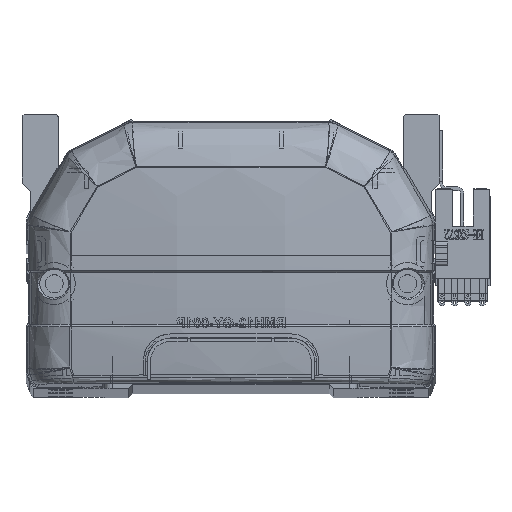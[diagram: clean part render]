
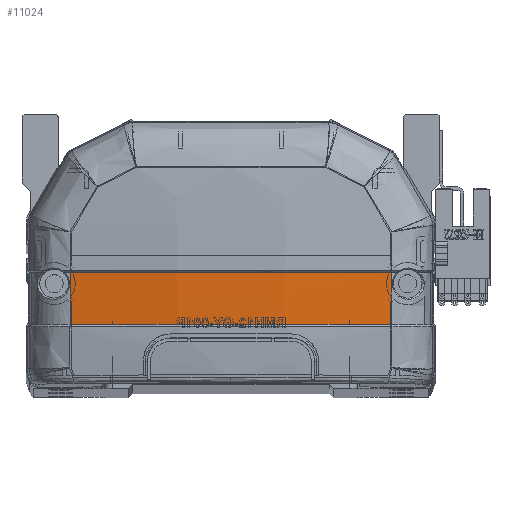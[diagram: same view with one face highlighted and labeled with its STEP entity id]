
A CAD part, top view. The second image highlights one B-rep face of the part: STEP entity #11024.
In plain terms, the highlighted free-form (B-spline) face has degree [3, 3] with [4, 4] control points.
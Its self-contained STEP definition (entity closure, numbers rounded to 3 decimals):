
#1162 = ORIENTED_EDGE ( 'NONE', *, *, #32492, .F. ) ;
#2226 = CARTESIAN_POINT ( 'NONE',  ( -13.384, 15.83, -8.724 ) ) ;
#2518 = CARTESIAN_POINT ( 'NONE',  ( 40.461, 28.832, -6.296 ) ) ;
#2749 = CARTESIAN_POINT ( 'NONE',  ( 26.761, 15.83, -7.945 ) ) ;
#3299 = CARTESIAN_POINT ( 'NONE',  ( -39.963, 28.706, -6.372 ) ) ;
#3590 = CARTESIAN_POINT ( 'NONE',  ( -26.748, 28.706, -8.432 ) ) ;
#3640 = CARTESIAN_POINT ( 'NONE',  ( -39.966, 24.412, -6.306 ) ) ;
#5342 = VERTEX_POINT ( 'NONE', #40905 ) ;
#6749 = CARTESIAN_POINT ( 'NONE',  ( -26.721, 15.83, -7.624 ) ) ;
#8481 = CARTESIAN_POINT ( 'NONE',  ( -13.373, 28.707, -9.468 ) ) ;
#8649 = CARTESIAN_POINT ( 'NONE',  ( 39.963, 28.706, -6.372 ) ) ;
#9544 = B_SPLINE_CURVE_WITH_KNOTS ( 'NONE', 3,
 ( #20130, #3590, #8481, #20469, #32641, #8649 ),
 .UNSPECIFIED., .F., .F.,
 ( 4, 2, 4 ),
 ( 0., 0.5, 1. ),
 .UNSPECIFIED. ) ;
#9662 = EDGE_CURVE ( 'NONE', #38555, #36040, #9544, .T. ) ;
#9684 = ORIENTED_EDGE ( 'NONE', *, *, #43623, .T. ) ;
#10077 = CARTESIAN_POINT ( 'NONE',  ( 40.461, 20.111, -6.066 ) ) ;
#10296 = CARTESIAN_POINT ( 'NONE',  ( -36.679, 15.83, -6.395 ) ) ;
#10417 = CARTESIAN_POINT ( 'NONE',  ( -13.598, 24.342, -10.47 ) ) ;
#10632 = CARTESIAN_POINT ( 'NONE',  ( -33.365, 15.83, -6.848 ) ) ;
#11024 = ADVANCED_FACE ( 'NONE', ( #35525 ), #28067, .F. ) ;
#14424 = CARTESIAN_POINT ( 'NONE',  ( -39.985, 15.83, -5.879 ) ) ;
#16425 = CARTESIAN_POINT ( 'NONE',  ( 39.985, 15.83, -5.879 ) ) ;
#17869 = CARTESIAN_POINT ( 'NONE',  ( -13.598, 15.499, -10.032 ) ) ;
#18205 = CARTESIAN_POINT ( 'NONE',  ( 13.598, 24.342, -10.47 ) ) ;
#19604 = ORIENTED_EDGE ( 'NONE', *, *, #49989, .T. ) ;
#20130 = CARTESIAN_POINT ( 'NONE',  ( -39.963, 28.706, -6.372 ) ) ;
#20469 = CARTESIAN_POINT ( 'NONE',  ( 13.375, 28.707, -9.468 ) ) ;
#20834 = CARTESIAN_POINT ( 'NONE',  ( 39.963, 28.706, -6.372 ) ) ;
#20943 = VERTEX_POINT ( 'NONE', #50614 ) ;
#21719 = B_SPLINE_CURVE_WITH_KNOTS ( 'NONE', 3,
 ( #16425, #27705, #36384, #28232 ),
 .UNSPECIFIED., .F., .F.,
 ( 4, 4 ),
 ( 0., 1. ),
 .UNSPECIFIED. ) ;
#21864 = CARTESIAN_POINT ( 'NONE',  ( -40.461, 15.757, -5.8 ) ) ;
#22545 = CARTESIAN_POINT ( 'NONE',  ( -40.461, 24.47, -6.231 ) ) ;
#26401 = CARTESIAN_POINT ( 'NONE',  ( -6.692, 15.83, -8.984 ) ) ;
#27705 = CARTESIAN_POINT ( 'NONE',  ( 39.973, 20.12, -6.142 ) ) ;
#27773 = B_SPLINE_CURVE_WITH_KNOTS ( 'NONE', 3,
 ( #38204, #2749, #46170, #26401, #2226, #30638, #6749, #10632, #10296, #14424 ),
 .UNSPECIFIED., .F., .F.,
 ( 4, 2, 2, 2, 4 ),
 ( 0., 0.04, 0.06, 0.07, 0.08 ),
 .UNSPECIFIED. ) ;
#28067 =( BOUNDED_SURFACE ( )  B_SPLINE_SURFACE ( 3, 3, ( 
 ( #30052, #10077, #50153, #2518 ),
 ( #34047, #30412, #18205, #41929 ),
 ( #17869, #30232, #10417, #49621 ),
 ( #21864, #38153, #22545, #45607 ) ),
 .UNSPECIFIED., .F., .F., .F. ) 
 B_SPLINE_SURFACE_WITH_KNOTS ( ( 4, 4 ),
 ( 4, 4 ),
 ( 0., 1. ),
 ( 0., 1. ),
 .UNSPECIFIED. ) 
 GEOMETRIC_REPRESENTATION_ITEM ( )  RATIONAL_B_SPLINE_SURFACE ( (
 ( 1., 1., 1., 1.),
 ( 0.992, 0.992, 0.992, 0.992),
 ( 0.992, 0.992, 0.992, 0.992),
 ( 1., 1., 1., 1.) ) ) 
 REPRESENTATION_ITEM ( '' )  SURFACE ( )  );
#28232 = CARTESIAN_POINT ( 'NONE',  ( 39.963, 28.706, -6.372 ) ) ;
#30052 = CARTESIAN_POINT ( 'NONE',  ( 40.461, 15.757, -5.8 ) ) ;
#30232 = CARTESIAN_POINT ( 'NONE',  ( -13.598, 19.918, -10.302 ) ) ;
#30412 = CARTESIAN_POINT ( 'NONE',  ( 13.598, 19.918, -10.302 ) ) ;
#30638 = CARTESIAN_POINT ( 'NONE',  ( -23.389, 15.83, -7.947 ) ) ;
#32492 = EDGE_CURVE ( 'NONE', #20943, #5342, #27773, .T. ) ;
#32641 = CARTESIAN_POINT ( 'NONE',  ( 26.749, 28.706, -8.432 ) ) ;
#34047 = CARTESIAN_POINT ( 'NONE',  ( 13.598, 15.499, -10.032 ) ) ;
#35525 = FACE_OUTER_BOUND ( 'NONE', #35958, .T. ) ;
#35958 = EDGE_LOOP ( 'NONE', ( #19604, #37554, #9684, #1162 ) ) ;
#36040 = VERTEX_POINT ( 'NONE', #20834 ) ;
#36384 = CARTESIAN_POINT ( 'NONE',  ( 39.966, 24.413, -6.306 ) ) ;
#37554 = ORIENTED_EDGE ( 'NONE', *, *, #9662, .F. ) ;
#38153 = CARTESIAN_POINT ( 'NONE',  ( -40.461, 20.111, -6.066 ) ) ;
#38204 = CARTESIAN_POINT ( 'NONE',  ( 39.985, 15.83, -5.879 ) ) ;
#38555 = VERTEX_POINT ( 'NONE', #47181 ) ;
#40905 = CARTESIAN_POINT ( 'NONE',  ( -39.985, 15.83, -5.879 ) ) ;
#41929 = CARTESIAN_POINT ( 'NONE',  ( 13.598, 28.769, -10.535 ) ) ;
#41972 = B_SPLINE_CURVE_WITH_KNOTS ( 'NONE', 3,
 ( #3299, #3640, #42877, #50953 ),
 .UNSPECIFIED., .F., .F.,
 ( 4, 4 ),
 ( 0., 1. ),
 .UNSPECIFIED. ) ;
#42877 = CARTESIAN_POINT ( 'NONE',  ( -39.973, 20.118, -6.142 ) ) ;
#43623 = EDGE_CURVE ( 'NONE', #38555, #5342, #41972, .T. ) ;
#45607 = CARTESIAN_POINT ( 'NONE',  ( -40.461, 28.832, -6.296 ) ) ;
#46170 = CARTESIAN_POINT ( 'NONE',  ( 13.38, 15.83, -8.984 ) ) ;
#47181 = CARTESIAN_POINT ( 'NONE',  ( -39.963, 28.706, -6.372 ) ) ;
#49621 = CARTESIAN_POINT ( 'NONE',  ( -13.598, 28.769, -10.535 ) ) ;
#49989 = EDGE_CURVE ( 'NONE', #20943, #36040, #21719, .T. ) ;
#50153 = CARTESIAN_POINT ( 'NONE',  ( 40.461, 24.47, -6.231 ) ) ;
#50614 = CARTESIAN_POINT ( 'NONE',  ( 39.985, 15.83, -5.879 ) ) ;
#50953 = CARTESIAN_POINT ( 'NONE',  ( -39.985, 15.83, -5.879 ) ) ;
